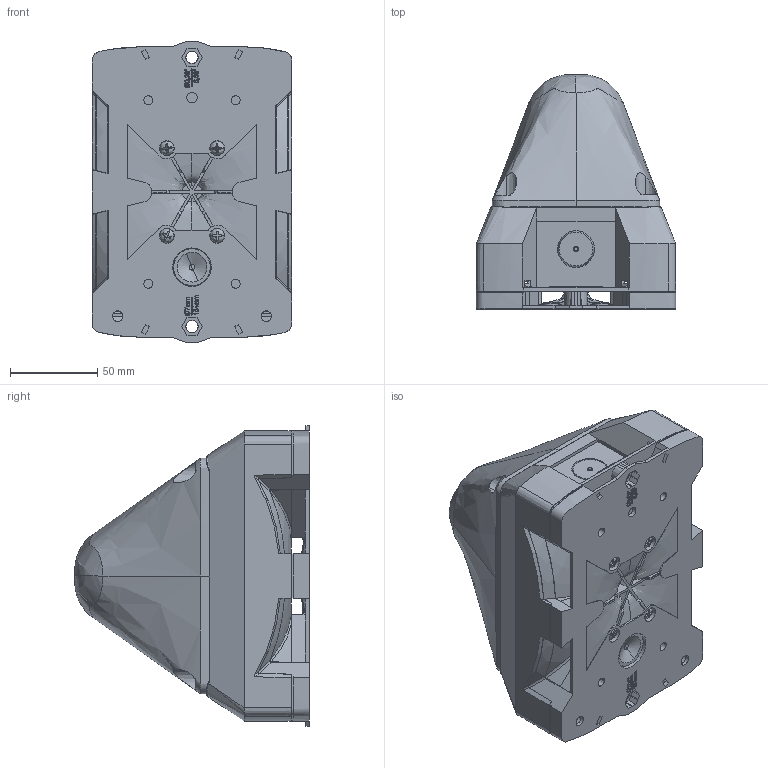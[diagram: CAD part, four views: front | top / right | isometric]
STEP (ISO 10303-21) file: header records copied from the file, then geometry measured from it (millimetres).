
FILE_DESCRIPTION (( 'STEP AP214' ), '1' );
FILE_NAME ('PYRA_X_MA_30360-200.STEP', '2014-03-18T14:48:34', ( '' ), ( '' ), 'SwSTEP 2.0', 'SolidWorks 2012', '' );
FILE_SCHEMA (( 'AUTOMOTIVE_DESIGN' ));
Length unit declared in the file: millimetre
Products named in the file (1): PYRA_X_MA_30360-200
Bounding box: 114 x 134.25 x 172 mm (x, y, z)
Surface area: 119333.2 mm2 (no closed solid volume)
Topology: 0 solids, 40 shells, 705 faces, 3527 edges, 2759 vertices
Faces by surface type: plane 372, bspline 159, cone 104, torus 44, cylinder 23, sphere 3
Entity records: 66834 total; most frequent: CARTESIAN_POINT 34951, ORIENTED_EDGE 4913, DIRECTION 3729, EDGE_CURVE 3522, VERTEX_POINT 2759, LINE 1667, VECTOR 1667, B_SPLINE_CURVE_WITH_KNOTS 1331
